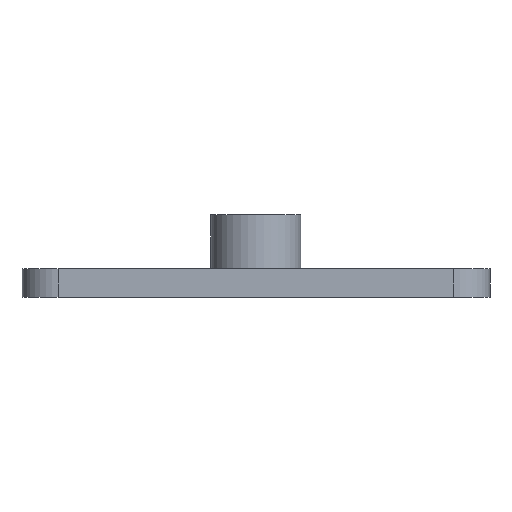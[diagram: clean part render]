
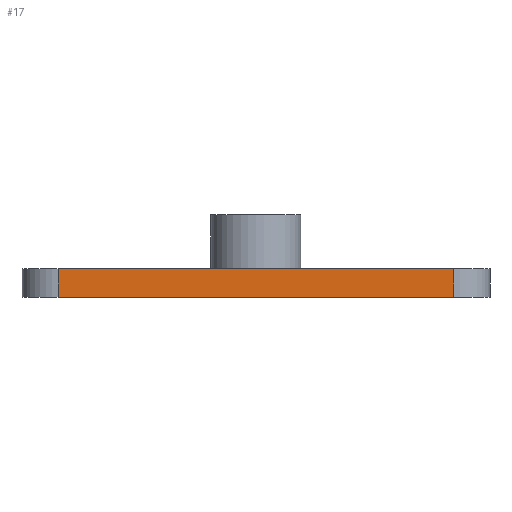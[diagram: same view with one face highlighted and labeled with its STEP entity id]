
A CAD part, left-side view. The second image highlights one B-rep face of the part: STEP entity #17.
In plain terms, the highlighted planar face has unit normal (-1, 0, 0).
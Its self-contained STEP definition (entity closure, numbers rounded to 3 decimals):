
#17 = ADVANCED_FACE('',(#18),#32,.F.);
#18 = FACE_BOUND('',#19,.F.);
#19 = EDGE_LOOP('',(#20,#55,#83,#111));
#20 = ORIENTED_EDGE('',*,*,#21,.F.);
#21 = EDGE_CURVE('',#22,#24,#26,.T.);
#22 = VERTEX_POINT('',#23);
#23 = CARTESIAN_POINT('',(-50.,-22.,3.2));
#24 = VERTEX_POINT('',#25);
#25 = CARTESIAN_POINT('',(-50.,22.,3.2));
#26 = SURFACE_CURVE('',#27,(#31,#43),.PCURVE_S1.);
#27 = LINE('',#28,#29);
#28 = CARTESIAN_POINT('',(-50.,-26.,3.2));
#29 = VECTOR('',#30,1.);
#30 = DIRECTION('',(0.,1.,0.));
#31 = PCURVE('',#32,#37);
#32 = PLANE('',#33);
#33 = AXIS2_PLACEMENT_3D('',#34,#35,#36);
#34 = CARTESIAN_POINT('',(-50.,-26.,0.));
#35 = DIRECTION('',(1.,0.,0.));
#36 = DIRECTION('',(0.,0.,1.));
#37 = DEFINITIONAL_REPRESENTATION('',(#38),#42);
#38 = LINE('',#39,#40);
#39 = CARTESIAN_POINT('',(3.2,0.));
#40 = VECTOR('',#41,1.);
#41 = DIRECTION('',(0.,-1.));
#42 = ( GEOMETRIC_REPRESENTATION_CONTEXT(2) 
PARAMETRIC_REPRESENTATION_CONTEXT() REPRESENTATION_CONTEXT('2D SPACE',''
  ) );
#43 = PCURVE('',#44,#49);
#44 = PLANE('',#45);
#45 = AXIS2_PLACEMENT_3D('',#46,#47,#48);
#46 = CARTESIAN_POINT('',(-50.,-26.,3.2));
#47 = DIRECTION('',(0.,0.,1.));
#48 = DIRECTION('',(1.,0.,0.));
#49 = DEFINITIONAL_REPRESENTATION('',(#50),#54);
#50 = LINE('',#51,#52);
#51 = CARTESIAN_POINT('',(0.,0.));
#52 = VECTOR('',#53,1.);
#53 = DIRECTION('',(0.,1.));
#54 = ( GEOMETRIC_REPRESENTATION_CONTEXT(2) 
PARAMETRIC_REPRESENTATION_CONTEXT() REPRESENTATION_CONTEXT('2D SPACE',''
  ) );
#55 = ORIENTED_EDGE('',*,*,#56,.F.);
#56 = EDGE_CURVE('',#57,#22,#59,.T.);
#57 = VERTEX_POINT('',#58);
#58 = CARTESIAN_POINT('',(-50.,-22.,0.));
#59 = SURFACE_CURVE('',#60,(#64,#71),.PCURVE_S1.);
#60 = LINE('',#61,#62);
#61 = CARTESIAN_POINT('',(-50.,-22.,0.));
#62 = VECTOR('',#63,1.);
#63 = DIRECTION('',(0.,0.,1.));
#64 = PCURVE('',#32,#65);
#65 = DEFINITIONAL_REPRESENTATION('',(#66),#70);
#66 = LINE('',#67,#68);
#67 = CARTESIAN_POINT('',(0.,-4.));
#68 = VECTOR('',#69,1.);
#69 = DIRECTION('',(1.,0.));
#70 = ( GEOMETRIC_REPRESENTATION_CONTEXT(2) 
PARAMETRIC_REPRESENTATION_CONTEXT() REPRESENTATION_CONTEXT('2D SPACE',''
  ) );
#71 = PCURVE('',#72,#77);
#72 = CYLINDRICAL_SURFACE('',#73,4.);
#73 = AXIS2_PLACEMENT_3D('',#74,#75,#76);
#74 = CARTESIAN_POINT('',(-46.,-22.,0.));
#75 = DIRECTION('',(0.,0.,1.));
#76 = DIRECTION('',(-1.,-0.,0.));
#77 = DEFINITIONAL_REPRESENTATION('',(#78),#82);
#78 = LINE('',#79,#80);
#79 = CARTESIAN_POINT('',(0.,0.));
#80 = VECTOR('',#81,1.);
#81 = DIRECTION('',(0.,1.));
#82 = ( GEOMETRIC_REPRESENTATION_CONTEXT(2) 
PARAMETRIC_REPRESENTATION_CONTEXT() REPRESENTATION_CONTEXT('2D SPACE',''
  ) );
#83 = ORIENTED_EDGE('',*,*,#84,.T.);
#84 = EDGE_CURVE('',#57,#85,#87,.T.);
#85 = VERTEX_POINT('',#86);
#86 = CARTESIAN_POINT('',(-50.,22.,0.));
#87 = SURFACE_CURVE('',#88,(#92,#99),.PCURVE_S1.);
#88 = LINE('',#89,#90);
#89 = CARTESIAN_POINT('',(-50.,-26.,0.));
#90 = VECTOR('',#91,1.);
#91 = DIRECTION('',(0.,1.,0.));
#92 = PCURVE('',#32,#93);
#93 = DEFINITIONAL_REPRESENTATION('',(#94),#98);
#94 = LINE('',#95,#96);
#95 = CARTESIAN_POINT('',(0.,0.));
#96 = VECTOR('',#97,1.);
#97 = DIRECTION('',(0.,-1.));
#98 = ( GEOMETRIC_REPRESENTATION_CONTEXT(2) 
PARAMETRIC_REPRESENTATION_CONTEXT() REPRESENTATION_CONTEXT('2D SPACE',''
  ) );
#99 = PCURVE('',#100,#105);
#100 = PLANE('',#101);
#101 = AXIS2_PLACEMENT_3D('',#102,#103,#104);
#102 = CARTESIAN_POINT('',(-50.,-26.,0.));
#103 = DIRECTION('',(0.,0.,1.));
#104 = DIRECTION('',(1.,0.,0.));
#105 = DEFINITIONAL_REPRESENTATION('',(#106),#110);
#106 = LINE('',#107,#108);
#107 = CARTESIAN_POINT('',(0.,0.));
#108 = VECTOR('',#109,1.);
#109 = DIRECTION('',(0.,1.));
#110 = ( GEOMETRIC_REPRESENTATION_CONTEXT(2) 
PARAMETRIC_REPRESENTATION_CONTEXT() REPRESENTATION_CONTEXT('2D SPACE',''
  ) );
#111 = ORIENTED_EDGE('',*,*,#112,.T.);
#112 = EDGE_CURVE('',#85,#24,#113,.T.);
#113 = SURFACE_CURVE('',#114,(#118,#125),.PCURVE_S1.);
#114 = LINE('',#115,#116);
#115 = CARTESIAN_POINT('',(-50.,22.,0.));
#116 = VECTOR('',#117,1.);
#117 = DIRECTION('',(0.,0.,1.));
#118 = PCURVE('',#32,#119);
#119 = DEFINITIONAL_REPRESENTATION('',(#120),#124);
#120 = LINE('',#121,#122);
#121 = CARTESIAN_POINT('',(0.,-48.));
#122 = VECTOR('',#123,1.);
#123 = DIRECTION('',(1.,0.));
#124 = ( GEOMETRIC_REPRESENTATION_CONTEXT(2) 
PARAMETRIC_REPRESENTATION_CONTEXT() REPRESENTATION_CONTEXT('2D SPACE',''
  ) );
#125 = PCURVE('',#126,#131);
#126 = CYLINDRICAL_SURFACE('',#127,4.);
#127 = AXIS2_PLACEMENT_3D('',#128,#129,#130);
#128 = CARTESIAN_POINT('',(-46.,22.,0.));
#129 = DIRECTION('',(0.,0.,1.));
#130 = DIRECTION('',(-1.,-0.,0.));
#131 = DEFINITIONAL_REPRESENTATION('',(#132),#136);
#132 = LINE('',#133,#134);
#133 = CARTESIAN_POINT('',(-0.,0.));
#134 = VECTOR('',#135,1.);
#135 = DIRECTION('',(-0.,1.));
#136 = ( GEOMETRIC_REPRESENTATION_CONTEXT(2) 
PARAMETRIC_REPRESENTATION_CONTEXT() REPRESENTATION_CONTEXT('2D SPACE',''
  ) );
